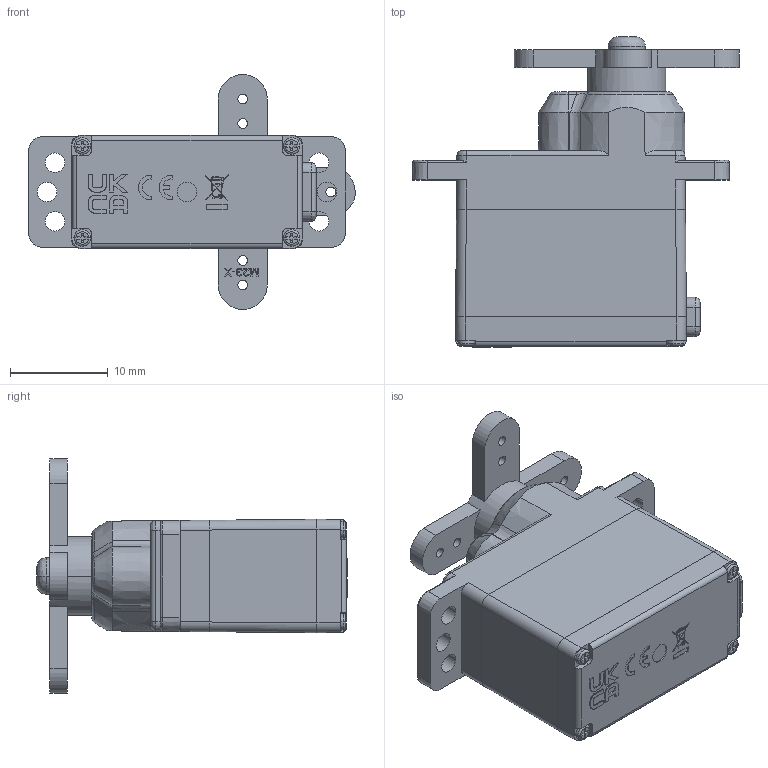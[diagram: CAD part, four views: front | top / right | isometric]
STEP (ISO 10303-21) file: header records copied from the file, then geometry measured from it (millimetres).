
FILE_DESCRIPTION((''),'2;1');
FILE_NAME('220501900001_HS-65HB_REPEAT_ASM','2022-11-21T',('Kil'),(''),'CREO PARAMETRIC BY PTC INC, 2016050','CREO PARAMETRIC BY PTC INC, 2016050','');
FILE_SCHEMA(('CONFIG_CONTROL_DESIGN'));
Products named in the file (12): HS-65_SKEL; HS65M-R_POM_120101020108; HS65T-RN_POM_120101010169; HS65L-R_POM_120101030078; 120212000220_AL_HS65MG5; 120212000220_AL_HS65MG5_ASM; 120202000068_18A_CPH_T1XL18; 120208000025_GAG-04; MS-X25_POM_120217000131; TW_6_5X3_2_SUS_120204000003; 120201000013_18A_CBH_M2_3XL5; 220501900001_HS-65HB_REPEAT_ASM
Assembly tree (14 placements, depth 3):
  220501900001_HS-65HB_REPEAT_ASM
    HS-65_SKEL
    HS65M-R_POM_120101020108
    HS65T-RN_POM_120101010169
    HS65L-R_POM_120101030078
    120212000220_AL_HS65MG5_ASM
      120212000220_AL_HS65MG5
    120202000068_18A_CPH_T1XL18  x4
    120208000025_GAG-04
    MS-X25_POM_120217000131
    TW_6_5X3_2_SUS_120204000003
    120201000013_18A_CBH_M2_3XL5
Bounding box: 33.37 x 31.75 x 24 mm (x, y, z)
Volume: 6928.1 mm3; surface area: 5488.9 mm2
Topology: 12 solids, 13 shells, 1892 faces, 5242 edges, 3440 vertices
Faces by surface type: plane 1130, cylinder 475, cone 115, bspline 78, torus 54, extrusion 40
Entity records: 81246 total; most frequent: CARTESIAN_POINT 17821, ORIENTED_EDGE 9224, DIRECTION 8200, PRESENTATION_STYLE_ASSIGNMENT 5627, STYLED_ITEM 5627, CURVE_STYLE 4652, EDGE_CURVE 4612, VECTOR 3354
